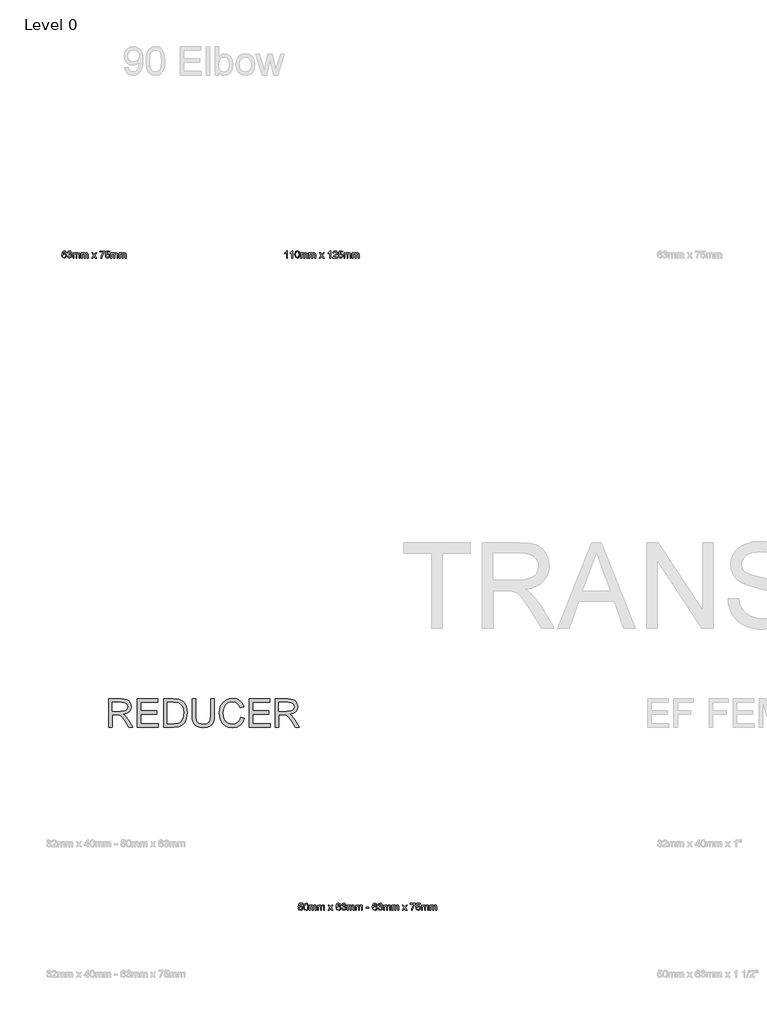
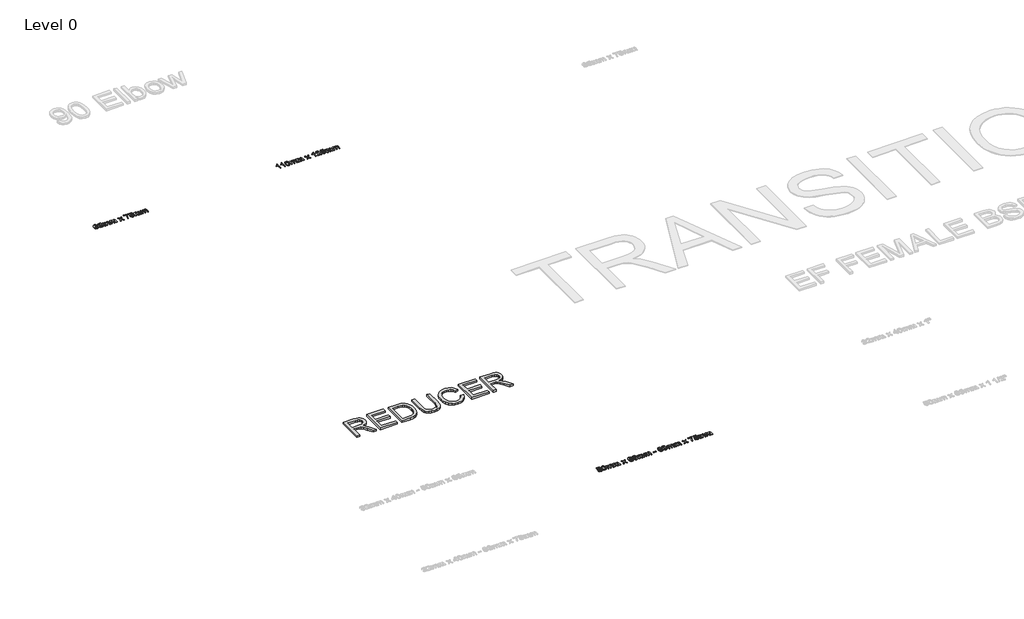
# One storey, part 3 of 21: 4 proxies.
"""IFC4 building model written with IfcOpenShell, lengths in millimetres."""

from ifc_helpers import new_model, si_unit, origin, origin_with_axes, place, context, project, spatial, polyline, outline, extrude, element, save

model = new_model("IFC4")

# Units and contexts
model_context = context("Model", 3, world=origin())
ifc_project = project(units=[si_unit("LENGTHUNIT", "METRE", prefix="MILLI")], contexts=[model_context])

# Site, building, storey
site = spatial("IfcSite", under=ifc_project)
building = spatial("IfcBuilding", under=site)
storey = spatial("IfcBuildingStorey", under=building, Name="Level 0", Elevation=0.0)

# Proxies
placement = place(None, origin())
element("IfcBuildingElementProxy", 1, Name="200mm Arial", ObjectType="200mm Arial", at=placement, inside=storey, context=model_context, shape_type="SweptSolid", body=[
    extrude(outline(polyline([(-11306.8908833, -11953.2112631), (-11306.8908833, -11752.2986428), (-11220.3159871, -11752.2986428), (-11197.0474509, -11753.6536748), (-11180.1187477, -11757.7187709), (-11167.74565, -11765.2235636), (-11158.1439299, -11776.8976855), (-11151.9819065, -11791.373842), (-11149.9278987, -11807.2847383), (-11153.3308071, -11827.0767897), (-11163.5395325, -11843.4843267), (-11180.8606431, -11855.5140679), (-11205.6007073, -11862.172732), (-11191.3268858, -11872.9148863), (-11170.9707488, -11898.7647278), (-11137.4689618, -11953.2112631), (-11166.6542667, -11953.2112631), (-11192.7984138, -11911.5670212), (-11211.6830229, -11884.0003971), (-11224.9513002, -11870.9773744), (-11236.8952023, -11866.1949085), (-11251.4633293, -11865.3119917), (-11281.7768057, -11865.3119917), (-11281.7768057, -11953.2112631), (-11306.8908833, -11953.2112631)]), holes=[polyline([(-11281.7768057, -11840.1979142), (-11225.5644369, -11840.1979142), (-11196.8941667, -11836.6417216), (-11187.4641249, -11832.0186711), (-11180.6092571, -11825.2619052), (-11175.0419762, -11808.2167061), (-11177.6968579, -11795.9662356), (-11185.6615031, -11786.0947354), (-11199.3651074, -11779.5832241), (-11219.2368665, -11777.4127203), (-11281.7768057, -11777.4127203), (-11281.7768057, -11840.1979142)])]), origin_with_axes(), (0.0, 0.0, 1.0), 15.0),
    extrude(outline(polyline([(-11105.978263, -11953.2112631), (-11105.978263, -11752.2986428), (-10961.5723171, -11752.2986428), (-10961.5723171, -11777.4127203), (-11080.8641854, -11777.4127203), (-11080.8641854, -11837.0586545), (-10967.8508365, -11837.0586545), (-10967.8508365, -11862.172732), (-11080.8641854, -11862.172732), (-11080.8641854, -11928.0971856), (-10958.4330574, -11928.0971856), (-10958.4330574, -11953.2112631), (-11105.978263, -11953.2112631)])), origin_with_axes(), (0.0, 0.0, 1.0), 15.0),
    extrude(outline(polyline([(-10920.7619411, -11953.2112631), (-10920.7619411, -11752.2986428), (-10851.4529732, -11752.2986428), (-10815.5967414, -11755.1926478), (-10799.5816119, -11760.7721914), (-10786.06808, -11769.5645711), (-10772.1744033, -11784.8684621), (-10762.2783776, -11803.900224), (-10756.3554775, -11826.2919748), (-10754.3811774, -11851.6758324), (-10759.7277291, -11892.2164283), (-10773.4619903, -11921.4753096), (-10791.8070391, -11939.6977311), (-10815.8174706, -11949.7776978), (-10848.1175098, -11953.2112631), (-10920.7619411, -11953.2112631)]), holes=[polyline([(-10895.6478636, -11928.0971856), (-10851.2077186, -11928.0971856), (-10818.8831539, -11924.4674165), (-10800.2437995, -11914.2157716), (-10791.5188649, -11903.3448586), (-10784.964434, -11889.2733723), (-10780.8625497, -11871.939999), (-10779.495255, -11851.283425), (-10782.1746622, -11823.9130045), (-10790.2128838, -11803.7040203), (-10802.0893409, -11789.8226063), (-10816.2834545, -11781.4348968), (-10851.8944316, -11777.4127203), (-10895.6478636, -11777.4127203), (-10895.6478636, -11928.0971856)])]), origin_with_axes(), (0.0, 0.0, 1.0), 15.0),
    extrude(outline(polyline([(-10588.0004138, -11752.2986428), (-10562.8863362, -11752.2986428), (-10562.8863362, -11868.2059967), (-10564.5908561, -11895.3495566), (-10569.7044159, -11916.2513853), (-10579.257085, -11932.3768794), (-10594.2789331, -11945.1914356), (-10614.8067485, -11953.560751), (-10640.8773192, -11956.3505228), (-10666.3776728, -11953.9225016), (-10686.7644667, -11946.6384381), (-10702.0438323, -11934.7497183), (-10712.2219008, -11918.5077282), (-10717.9424658, -11896.7229827), (-10719.8493208, -11868.2059967), (-10719.8493208, -11752.2986428), (-10694.7352433, -11752.2986428), (-10694.7352433, -11867.3230799), (-10693.4967072, -11889.8926404), (-10689.7810991, -11905.6073329), (-10683.0488586, -11916.4905086), (-10672.7604254, -11924.5655184), (-10659.3449954, -11929.5687135), (-10643.231764, -11931.2364452), (-10617.6884908, -11927.93777), (-10600.7046053, -11918.0417444), (-10591.1764616, -11898.7647278), (-10588.0004138, -11867.3230799), (-10588.0004138, -11752.2986428)])), origin_with_axes(), (0.0, 0.0, 1.0), 15.0),
    extrude(outline(polyline([(-10377.6700144, -11881.7931051), (-10352.5559368, -11888.2678282), (-10364.1442197, -11917.5328409), (-10382.329853, -11938.9129162), (-10406.2176572, -11951.9911211), (-10434.9124528, -11956.3505228), (-10464.0425755, -11953.0518476), (-10487.1762216, -11943.1558219), (-10504.9081338, -11927.0058023), (-10517.8330545, -11904.9451453), (-10525.7241233, -11879.0094647), (-10528.3544796, -11851.234374), (-10525.3807668, -11821.9387045), (-10516.4596284, -11796.6406859), (-10502.0570483, -11776.1435274), (-10482.6390103, -11761.250438), (-10459.6095974, -11752.1821468), (-10434.3728926, -11749.1593831), (-10406.8369252, -11753.071195), (-10384.0711611, -11764.8066306), (-10366.7868387, -11783.6421888), (-10355.6951965, -11808.8543682), (-10380.8092741, -11814.838582), (-10389.5158146, -11796.52419), (-10401.4106658, -11783.9610198), (-10416.6409804, -11776.6953504), (-10435.3539112, -11774.2734606), (-10456.9240589, -11776.9589992), (-10474.6437083, -11785.0156149), (-10488.0897952, -11797.5971791), (-10496.8392554, -11813.8575633), (-10501.6401154, -11832.2394003), (-10503.2404021, -11851.1853231), (-10501.3458098, -11874.3864143), (-10495.662033, -11894.4482457), (-10485.9744738, -11910.6043967), (-10472.0685343, -11922.0884463), (-10455.3973486, -11928.9494455), (-10437.4140504, -11931.2364452), (-10416.450908, -11928.121711), (-10398.9826446, -11918.7775083), (-10385.7940751, -11903.3019391), (-10377.6700144, -11881.7931051)])), origin_with_axes(), (0.0, 0.0, 1.0), 15.0),
    extrude(outline(polyline([(-10318.0240802, -11953.2112631), (-10318.0240802, -11752.2986428), (-10173.6181344, -11752.2986428), (-10173.6181344, -11777.4127203), (-10292.9100027, -11777.4127203), (-10292.9100027, -11837.0586545), (-10179.8966538, -11837.0586545), (-10179.8966538, -11862.172732), (-10292.9100027, -11862.172732), (-10292.9100027, -11928.0971856), (-10170.4788747, -11928.0971856), (-10170.4788747, -11953.2112631), (-10318.0240802, -11953.2112631)])), origin_with_axes(), (0.0, 0.0, 1.0), 15.0),
    extrude(outline(polyline([(-10132.8077584, -11953.2112631), (-10132.8077584, -11752.2986428), (-10046.2328622, -11752.2986428), (-10022.964326, -11753.6536748), (-10006.0356229, -11757.7187709), (-9993.6625251, -11765.2235636), (-9984.060805, -11776.8976855), (-9977.8987816, -11791.373842), (-9975.8447738, -11807.2847383), (-9979.2476822, -11827.0767897), (-9989.4564076, -11843.4843267), (-10006.7775182, -11855.5140679), (-10031.5175824, -11862.172732), (-10017.243761, -11872.9148863), (-9996.8876239, -11898.7647278), (-9963.3858369, -11953.2112631), (-9992.5711418, -11953.2112631), (-10018.715289, -11911.5670212), (-10037.599898, -11884.0003971), (-10050.8681753, -11870.9773744), (-10062.8120774, -11866.1949085), (-10077.3802045, -11865.3119917), (-10107.6936809, -11865.3119917), (-10107.6936809, -11953.2112631), (-10132.8077584, -11953.2112631)]), holes=[polyline([(-10107.6936809, -11840.1979142), (-10051.481312, -11840.1979142), (-10022.8110418, -11836.6417216), (-10013.381, -11832.0186711), (-10006.5261322, -11825.2619052), (-10000.9588513, -11808.2167061), (-10003.6137331, -11795.9662356), (-10011.5783782, -11786.0947354), (-10025.2819826, -11779.5832241), (-10045.1537417, -11777.4127203), (-10107.6936809, -11777.4127203), (-10107.6936809, -11840.1979142)])]), origin_with_axes(), (0.0, 0.0, 1.0), 15.0),
])
element("IfcBuildingElementProxy", 2, Name="50mm", ObjectType="50mm", at=placement, inside=storey, context=model_context, shape_type="SweptSolid", body=[
    extrude(outline(polyline([(-9971.6398969, -13230.5029813), (-9965.3613775, -13229.7181664), (-9962.1975923, -13236.1867581), (-9955.6370301, -13238.3511305), (-9947.7643554, -13235.3406295), (-9944.9561895, -13227.3514589), (-9947.5865457, -13219.8957171), (-9955.5389282, -13217.1611276), (-9961.0510268, -13218.2525109), (-9964.5765625, -13221.0852022), (-9970.8550819, -13220.3003873), (-9965.3613775, -13194.4014948), (-9941.0321149, -13194.4014948), (-9941.0321149, -13200.6800142), (-9960.2846059, -13200.6800142), (-9962.9701445, -13214.5123773), (-9953.7853574, -13210.8826082), (-9943.0493345, -13215.3830313), (-9938.6776701, -13226.9590514), (-9942.6140074, -13238.6086479), (-9948.2671274, -13243.1243994), (-9955.6615555, -13244.6296499), (-9966.740935, -13240.7607576), (-9971.6398969, -13230.5029813)])), origin_with_axes(), (0.0, 0.0, 1.0), 5.0),
    extrude(outline(polyline([(-9933.1839656, -13219.1354277), (-9931.3384243, -13204.6837966), (-9925.8569826, -13196.3512694), (-9916.7028522, -13193.6166799), (-9909.3697378, -13195.2353607), (-9904.305229, -13199.9013307), (-9901.362173, -13207.332547), (-9900.2217389, -13219.1354277), (-9902.0488861, -13233.525745), (-9907.5119337, -13241.8766663), (-9916.7028522, -13244.6296499), (-9928.1807705, -13239.847184), (-9931.9331668, -13231.3521756), (-9933.1839656, -13219.1354277)]), holes=[polyline([(-9926.9054462, -13219.1231649), (-9923.9623903, -13234.7152302), (-9916.7028522, -13238.3511305), (-9909.4433142, -13234.7029674), (-9906.5002582, -13219.1231649), (-9909.3452123, -13203.7089093), (-9916.7764286, -13199.8951993), (-9923.8642884, -13203.2551882), (-9926.9054462, -13219.1231649)])]), origin_with_axes(), (0.0, 0.0, 1.0), 5.0),
    extrude(outline(polyline([(-9893.1584046, -13243.844835), (-9893.1584046, -13206.9585336), (-9886.8798852, -13206.9585336), (-9886.8798852, -13213.0285865), (-9882.5634031, -13208.0560482), (-9876.4197738, -13206.1737187), (-9870.1289917, -13208.0928364), (-9866.6709009, -13213.4700449), (-9861.771939, -13207.9978003), (-9855.5853901, -13206.1737187), (-9847.3754903, -13209.2087452), (-9844.4998793, -13218.5590792), (-9844.4998793, -13243.844835), (-9850.7783987, -13243.844835), (-9850.7783987, -13221.2568805), (-9851.3608785, -13216.0145621), (-9853.4700686, -13213.4332567), (-9857.0569181, -13212.4522381), (-9863.2312042, -13214.9660984), (-9865.6898822, -13223.0227141), (-9865.6898822, -13243.844835), (-9871.9684016, -13243.844835), (-9871.9684016, -13220.5579047), (-9873.4215355, -13214.4755891), (-9878.1856073, -13212.4522381), (-9882.8331832, -13213.8011387), (-9885.923392, -13217.7497388), (-9886.8798852, -13225.2422688), (-9886.8798852, -13243.844835), (-9893.1584046, -13243.844835)])), origin_with_axes(), (0.0, 0.0, 1.0), 5.0),
    extrude(outline(polyline([(-9835.0821002, -13243.844835), (-9835.0821002, -13206.9585336), (-9828.8035809, -13206.9585336), (-9828.8035809, -13213.0285865), (-9824.4870988, -13208.0560482), (-9818.3434695, -13206.1737187), (-9812.0526873, -13208.0928364), (-9808.5945966, -13213.4700449), (-9803.6956347, -13207.9978003), (-9797.5090858, -13206.1737187), (-9789.2991859, -13209.2087452), (-9786.423575, -13218.5590792), (-9786.423575, -13243.844835), (-9792.7020944, -13243.844835), (-9792.7020944, -13221.2568805), (-9793.2845742, -13216.0145621), (-9795.3937643, -13213.4332567), (-9798.9806138, -13212.4522381), (-9805.1548999, -13214.9660984), (-9807.6135779, -13223.0227141), (-9807.6135779, -13243.844835), (-9813.8920973, -13243.844835), (-9813.8920973, -13220.5579047), (-9815.3452312, -13214.4755891), (-9820.109303, -13212.4522381), (-9824.7568789, -13213.8011387), (-9827.8470877, -13217.7497388), (-9828.8035809, -13225.2422688), (-9828.8035809, -13243.844835), (-9835.0821002, -13243.844835)])), origin_with_axes(), (0.0, 0.0, 1.0), 5.0),
    extrude(outline(polyline([(-9761.3094975, -13243.844835), (-9747.8940674, -13225.3035824), (-9760.5246826, -13206.9585336), (-9752.9708389, -13206.9585336), (-9746.8762605, -13215.7877015), (-9744.0313064, -13219.9570308), (-9741.5664971, -13216.547991), (-9734.6257901, -13206.9585336), (-9727.0719465, -13206.9585336), (-9740.3402238, -13225.3035824), (-9727.5624558, -13243.844835), (-9735.1162994, -13243.844835), (-9742.8050331, -13232.6980105), (-9744.2152474, -13230.6623968), (-9753.7556538, -13243.844835), (-9761.3094975, -13243.844835)])), origin_with_axes(), (0.0, 0.0, 1.0), 5.0),
    extrude(outline(polyline([(-9671.8405963, -13206.9585336), (-9678.1191156, -13207.7433485), (-9680.4980859, -13202.5071615), (-9686.788868, -13199.8951993), (-9692.4542507, -13201.4157782), (-9696.740076, -13207.1240805), (-9698.5243036, -13218.3138245), (-9692.9876796, -13213.304498), (-9686.1266804, -13211.6674232), (-9675.4581025, -13216.1433208), (-9671.0557813, -13227.7070781), (-9673.1281832, -13236.3706991), (-9678.8303542, -13242.5020657), (-9687.0586481, -13244.6296499), (-9699.8548102, -13238.9887927), (-9703.5658198, -13231.5207882), (-9704.802823, -13220.3984892), (-9703.4293969, -13207.893567), (-9699.3091186, -13199.3433763), (-9693.6835897, -13195.048354), (-9686.3964605, -13193.6166799), (-9676.4759094, -13197.1606098), (-9671.8405963, -13206.9585336)]), holes=[polyline([(-9698.5243036, -13227.6089763), (-9697.0711698, -13233.0474984), (-9693.2084088, -13236.9960985), (-9687.5491574, -13238.3511305), (-9680.148598, -13235.5429646), (-9677.3343007, -13227.9155446), (-9680.1118098, -13220.613087), (-9687.8066748, -13217.9459425), (-9695.403438, -13220.613087), (-9698.5243036, -13227.6089763)])]), origin_with_axes(), (0.0, 0.0, 1.0), 5.0),
    extrude(outline(polyline([(-9665.5620769, -13230.5029813), (-9659.2835575, -13229.7181664), (-9655.8193354, -13236.3277796), (-9649.3384809, -13238.3511305), (-9641.7110608, -13235.5674901), (-9638.8783695, -13228.6758341), (-9641.6865354, -13222.1827169), (-9648.8234461, -13219.6136743), (-9653.2257673, -13220.3003873), (-9652.5267915, -13214.0218679), (-9644.3965994, -13212.2928225), (-9641.2328143, -13206.7500672), (-9643.5259454, -13201.8388425), (-9649.4365827, -13199.8951993), (-9655.4207965, -13201.8572366), (-9658.4987426, -13207.7433485), (-9664.7772619, -13206.9585336), (-9659.6391767, -13197.1115589), (-9649.6573119, -13193.6166799), (-9642.0850742, -13195.3395939), (-9636.7875735, -13200.0484835), (-9634.9542949, -13206.3821852), (-9636.695603, -13212.1701952), (-9641.8459509, -13216.3272618), (-9635.0033458, -13220.6192184), (-9632.5998501, -13228.7861987), (-9637.4068415, -13240.0188623), (-9649.5592101, -13244.6296499), (-9660.5711445, -13240.6933126), (-9665.5620769, -13230.5029813)])), origin_with_axes(), (0.0, 0.0, 1.0), 5.0),
    extrude(outline(polyline([(-9625.5365158, -13243.844835), (-9625.5365158, -13206.9585336), (-9619.2579964, -13206.9585336), (-9619.2579964, -13213.0285865), (-9614.9415143, -13208.0560482), (-9608.797885, -13206.1737187), (-9602.5071029, -13208.0928364), (-9599.0490121, -13213.4700449), (-9594.1500502, -13207.9978003), (-9587.9635014, -13206.1737187), (-9579.7536015, -13209.2087452), (-9576.8779906, -13218.5590792), (-9576.8779906, -13243.844835), (-9583.1565099, -13243.844835), (-9583.1565099, -13221.2568805), (-9583.7389898, -13216.0145621), (-9585.8481799, -13213.4332567), (-9589.4350293, -13212.4522381), (-9595.6093155, -13214.9660984), (-9598.0679935, -13223.0227141), (-9598.0679935, -13243.844835), (-9604.3465129, -13243.844835), (-9604.3465129, -13220.5579047), (-9605.7996468, -13214.4755891), (-9610.5637186, -13212.4522381), (-9615.2112945, -13213.8011387), (-9618.3015032, -13217.7497388), (-9619.2579964, -13225.2422688), (-9619.2579964, -13243.844835), (-9625.5365158, -13243.844835)])), origin_with_axes(), (0.0, 0.0, 1.0), 5.0),
    extrude(outline(polyline([(-9567.4602115, -13243.844835), (-9567.4602115, -13206.9585336), (-9561.1816921, -13206.9585336), (-9561.1816921, -13213.0285865), (-9556.86521, -13208.0560482), (-9550.7215807, -13206.1737187), (-9544.4307986, -13208.0928364), (-9540.9727078, -13213.4700449), (-9536.0737459, -13207.9978003), (-9529.887197, -13206.1737187), (-9521.6772972, -13209.2087452), (-9518.8016863, -13218.5590792), (-9518.8016863, -13243.844835), (-9525.0802056, -13243.844835), (-9525.0802056, -13221.2568805), (-9525.6626855, -13216.0145621), (-9527.7718756, -13213.4332567), (-9531.358725, -13212.4522381), (-9537.5330112, -13214.9660984), (-9539.9916892, -13223.0227141), (-9539.9916892, -13243.844835), (-9546.2702086, -13243.844835), (-9546.2702086, -13220.5579047), (-9547.7233424, -13214.4755891), (-9552.4874143, -13212.4522381), (-9557.1349902, -13213.8011387), (-9560.2251989, -13217.7497388), (-9561.1816921, -13225.2422688), (-9561.1816921, -13243.844835), (-9567.4602115, -13243.844835)])), origin_with_axes(), (0.0, 0.0, 1.0), 5.0),
    extrude(outline(polyline([(-9492.9027938, -13228.9333515), (-9492.9027938, -13222.6548321), (-9473.2824207, -13222.6548321), (-9473.2824207, -13228.9333515), (-9492.9027938, -13228.9333515)])), origin_with_axes(), (0.0, 0.0, 1.0), 5.0),
    extrude(outline(polyline([(-9415.9909313, -13206.9585336), (-9422.2694507, -13207.7433485), (-9424.648421, -13202.5071615), (-9430.9392031, -13199.8951993), (-9436.6045858, -13201.4157782), (-9440.890411, -13207.1240805), (-9442.6746387, -13218.3138245), (-9437.1380147, -13213.304498), (-9430.2770155, -13211.6674232), (-9419.6084376, -13216.1433208), (-9415.2061164, -13227.7070781), (-9417.2785183, -13236.3706991), (-9422.9806892, -13242.5020657), (-9431.2089832, -13244.6296499), (-9444.0051453, -13238.9887927), (-9447.7161549, -13231.5207882), (-9448.9531581, -13220.3984892), (-9447.579732, -13207.893567), (-9443.4594536, -13199.3433763), (-9437.8339248, -13195.048354), (-9430.5467956, -13193.6166799), (-9420.6262445, -13197.1606098), (-9415.9909313, -13206.9585336)]), holes=[polyline([(-9442.6746387, -13227.6089763), (-9441.2215048, -13233.0474984), (-9437.3587439, -13236.9960985), (-9431.6994925, -13238.3511305), (-9424.2989331, -13235.5429646), (-9421.4846358, -13227.9155446), (-9424.2621449, -13220.613087), (-9431.9570099, -13217.9459425), (-9439.5537731, -13220.613087), (-9442.6746387, -13227.6089763)])]), origin_with_axes(), (0.0, 0.0, 1.0), 5.0),
    extrude(outline(polyline([(-9409.712412, -13230.5029813), (-9403.4338926, -13229.7181664), (-9399.9696705, -13236.3277796), (-9393.488816, -13238.3511305), (-9385.8613959, -13235.5674901), (-9383.0287046, -13228.6758341), (-9385.8368705, -13222.1827169), (-9392.9737812, -13219.6136743), (-9397.3761024, -13220.3003873), (-9396.6771266, -13214.0218679), (-9388.5469345, -13212.2928225), (-9385.3831493, -13206.7500672), (-9387.6762804, -13201.8388425), (-9393.5869178, -13199.8951993), (-9399.5711316, -13201.8572366), (-9402.6490776, -13207.7433485), (-9408.927597, -13206.9585336), (-9403.7895118, -13197.1115589), (-9393.807647, -13193.6166799), (-9386.2354093, -13195.3395939), (-9380.9379086, -13200.0484835), (-9379.10463, -13206.3821852), (-9380.8459381, -13212.1701952), (-9385.996286, -13216.3272618), (-9379.1536809, -13220.6192184), (-9376.7501852, -13228.7861987), (-9381.5571766, -13240.0188623), (-9393.7095452, -13244.6296499), (-9404.7214796, -13240.6933126), (-9409.712412, -13230.5029813)])), origin_with_axes(), (0.0, 0.0, 1.0), 5.0),
    extrude(outline(polyline([(-9369.6868509, -13243.844835), (-9369.6868509, -13206.9585336), (-9363.4083315, -13206.9585336), (-9363.4083315, -13213.0285865), (-9359.0918494, -13208.0560482), (-9352.9482201, -13206.1737187), (-9346.657438, -13208.0928364), (-9343.1993472, -13213.4700449), (-9338.3003853, -13207.9978003), (-9332.1138364, -13206.1737187), (-9323.9039366, -13209.2087452), (-9321.0283257, -13218.5590792), (-9321.0283257, -13243.844835), (-9327.306845, -13243.844835), (-9327.306845, -13221.2568805), (-9327.8893249, -13216.0145621), (-9329.998515, -13213.4332567), (-9333.5853644, -13212.4522381), (-9339.7596506, -13214.9660984), (-9342.2183286, -13223.0227141), (-9342.2183286, -13243.844835), (-9348.496848, -13243.844835), (-9348.496848, -13220.5579047), (-9349.9499818, -13214.4755891), (-9354.7140537, -13212.4522381), (-9359.3616295, -13213.8011387), (-9362.4518383, -13217.7497388), (-9363.4083315, -13225.2422688), (-9363.4083315, -13243.844835), (-9369.6868509, -13243.844835)])), origin_with_axes(), (0.0, 0.0, 1.0), 5.0),
    extrude(outline(polyline([(-9311.6105466, -13243.844835), (-9311.6105466, -13206.9585336), (-9305.3320272, -13206.9585336), (-9305.3320272, -13213.0285865), (-9301.0155451, -13208.0560482), (-9294.8719158, -13206.1737187), (-9288.5811337, -13208.0928364), (-9285.1230429, -13213.4700449), (-9280.224081, -13207.9978003), (-9274.0375321, -13206.1737187), (-9265.8276323, -13209.2087452), (-9262.9520213, -13218.5590792), (-9262.9520213, -13243.844835), (-9269.2305407, -13243.844835), (-9269.2305407, -13221.2568805), (-9269.8130206, -13216.0145621), (-9271.9222107, -13213.4332567), (-9275.5090601, -13212.4522381), (-9281.6833463, -13214.9660984), (-9284.1420243, -13223.0227141), (-9284.1420243, -13243.844835), (-9290.4205437, -13243.844835), (-9290.4205437, -13220.5579047), (-9291.8736775, -13214.4755891), (-9296.6377494, -13212.4522381), (-9301.2853252, -13213.8011387), (-9304.375534, -13217.7497388), (-9305.3320272, -13225.2422688), (-9305.3320272, -13243.844835), (-9311.6105466, -13243.844835)])), origin_with_axes(), (0.0, 0.0, 1.0), 5.0),
    extrude(outline(polyline([(-9237.8379438, -13243.844835), (-9224.4225137, -13225.3035824), (-9237.0531289, -13206.9585336), (-9229.4992853, -13206.9585336), (-9223.4047069, -13215.7877015), (-9220.5597528, -13219.9570308), (-9218.0949434, -13216.547991), (-9211.1542364, -13206.9585336), (-9203.6003928, -13206.9585336), (-9216.8686701, -13225.3035824), (-9204.0909021, -13243.844835), (-9211.6447458, -13243.844835), (-9219.3334795, -13232.6980105), (-9220.7436938, -13230.6623968), (-9230.2841002, -13243.844835), (-9237.8379438, -13243.844835)])), origin_with_axes(), (0.0, 0.0, 1.0), 5.0),
    extrude(outline(polyline([(-9180.5464544, -13200.6800142), (-9180.5464544, -13194.4014948), (-9147.5842277, -13194.4014948), (-9147.5842277, -13199.4782664), (-9156.9345617, -13212.985667), (-9164.0898665, -13230.196413), (-9166.4197858, -13243.844835), (-9172.6983052, -13243.844835), (-9170.202839, -13229.6813782), (-9163.3541025, -13213.67238), (-9153.862747, -13200.6800142), (-9180.5464544, -13200.6800142)])), origin_with_axes(), (0.0, 0.0, 1.0), 5.0),
    extrude(outline(polyline([(-9142.0905232, -13230.5029813), (-9135.8120038, -13229.7181664), (-9132.6482187, -13236.1867581), (-9126.0876564, -13238.3511305), (-9118.2149817, -13235.3406295), (-9115.4068158, -13227.3514589), (-9118.0371721, -13219.8957171), (-9125.9895545, -13217.1611276), (-9131.5016531, -13218.2525109), (-9135.0271889, -13221.0852022), (-9141.3057083, -13220.3003873), (-9135.8120038, -13194.4014948), (-9111.4827412, -13194.4014948), (-9111.4827412, -13200.6800142), (-9130.7352323, -13200.6800142), (-9133.4207708, -13214.5123773), (-9124.2359837, -13210.8826082), (-9113.4999608, -13215.3830313), (-9109.1282964, -13226.9590514), (-9113.0646338, -13238.6086479), (-9118.7177538, -13243.1243994), (-9126.1121819, -13244.6296499), (-9137.1915613, -13240.7607576), (-9142.0905232, -13230.5029813)])), origin_with_axes(), (0.0, 0.0, 1.0), 5.0),
    extrude(outline(polyline([(-9102.0649621, -13243.844835), (-9102.0649621, -13206.9585336), (-9095.7864427, -13206.9585336), (-9095.7864427, -13213.0285865), (-9091.4699607, -13208.0560482), (-9085.3263313, -13206.1737187), (-9079.0355492, -13208.0928364), (-9075.5774585, -13213.4700449), (-9070.6784966, -13207.9978003), (-9064.4919477, -13206.1737187), (-9056.2820478, -13209.2087452), (-9053.4064369, -13218.5590792), (-9053.4064369, -13243.844835), (-9059.6849563, -13243.844835), (-9059.6849563, -13221.2568805), (-9060.2674361, -13216.0145621), (-9062.3766262, -13213.4332567), (-9065.9634757, -13212.4522381), (-9072.1377618, -13214.9660984), (-9074.5964398, -13223.0227141), (-9074.5964398, -13243.844835), (-9080.8749592, -13243.844835), (-9080.8749592, -13220.5579047), (-9082.3280931, -13214.4755891), (-9087.0921649, -13212.4522381), (-9091.7397408, -13213.8011387), (-9094.8299496, -13217.7497388), (-9095.7864427, -13225.2422688), (-9095.7864427, -13243.844835), (-9102.0649621, -13243.844835)])), origin_with_axes(), (0.0, 0.0, 1.0), 5.0),
    extrude(outline(polyline([(-9043.9886578, -13243.844835), (-9043.9886578, -13206.9585336), (-9037.7101384, -13206.9585336), (-9037.7101384, -13213.0285865), (-9033.3936564, -13208.0560482), (-9027.250027, -13206.1737187), (-9020.9592449, -13208.0928364), (-9017.5011542, -13213.4700449), (-9012.6021923, -13207.9978003), (-9006.4156434, -13206.1737187), (-8998.2057435, -13209.2087452), (-8995.3301326, -13218.5590792), (-8995.3301326, -13243.844835), (-9001.608652, -13243.844835), (-9001.608652, -13221.2568805), (-9002.1911318, -13216.0145621), (-9004.3003219, -13213.4332567), (-9007.8871714, -13212.4522381), (-9014.0614575, -13214.9660984), (-9016.5201355, -13223.0227141), (-9016.5201355, -13243.844835), (-9022.7986549, -13243.844835), (-9022.7986549, -13220.5579047), (-9024.2517888, -13214.4755891), (-9029.0158606, -13212.4522381), (-9033.6634365, -13213.8011387), (-9036.7536452, -13217.7497388), (-9037.7101384, -13225.2422688), (-9037.7101384, -13243.844835), (-9043.9886578, -13243.844835)])), origin_with_axes(), (0.0, 0.0, 1.0), 5.0),
])
element("IfcBuildingElementProxy", 3, Name="50mm", ObjectType="50mm", at=placement, inside=storey, context=model_context, shape_type="SweptSolid", body=[
    extrude(outline(polyline([(-11606.051157, -8606.9585336), (-11612.3296764, -8607.7433485), (-11614.7086466, -8602.5071615), (-11620.9994287, -8599.8951993), (-11626.6648115, -8601.4157782), (-11630.9506367, -8607.1240805), (-11632.7348644, -8618.3138245), (-11627.1982403, -8613.304498), (-11620.3372411, -8611.6674232), (-11609.6686633, -8616.1433208), (-11605.2663421, -8627.7070781), (-11607.338744, -8636.3706991), (-11613.0409149, -8642.5020657), (-11621.2692089, -8644.6296499), (-11634.0653709, -8638.9887927), (-11637.7763805, -8631.5207882), (-11639.0133838, -8620.3984892), (-11637.6399576, -8607.893567), (-11633.5196793, -8599.3433763), (-11627.8941505, -8595.048354), (-11620.6070213, -8593.6166799), (-11610.6864701, -8597.1606098), (-11606.051157, -8606.9585336)]), holes=[polyline([(-11632.7348644, -8627.6089763), (-11631.2817305, -8633.0474984), (-11627.4189695, -8636.9960985), (-11621.7597182, -8638.3511305), (-11614.3591587, -8635.5429646), (-11611.5448614, -8627.9155446), (-11614.3223705, -8620.613087), (-11622.0172356, -8617.9459425), (-11629.6139988, -8620.613087), (-11632.7348644, -8627.6089763)])]), origin_with_axes(), (0.0, 0.0, 1.0), 5.0),
    extrude(outline(polyline([(-11599.7726376, -8630.5029813), (-11593.4941182, -8629.7181664), (-11590.0298961, -8636.3277796), (-11583.5490416, -8638.3511305), (-11575.9216216, -8635.5674901), (-11573.0889302, -8628.6758341), (-11575.8970961, -8622.1827169), (-11583.0340068, -8619.6136743), (-11587.436328, -8620.3003873), (-11586.7373522, -8614.0218679), (-11578.6071601, -8612.2928225), (-11575.443375, -8606.7500672), (-11577.7365061, -8601.8388425), (-11583.6471435, -8599.8951993), (-11589.6313573, -8601.8572366), (-11592.7093033, -8607.7433485), (-11598.9878227, -8606.9585336), (-11593.8497375, -8597.1115589), (-11583.8678727, -8593.6166799), (-11576.2956349, -8595.3395939), (-11570.9981342, -8600.0484835), (-11569.1648556, -8606.3821852), (-11570.9061637, -8612.1701952), (-11576.0565116, -8616.3272618), (-11569.2139065, -8620.6192184), (-11566.8104108, -8628.7861987), (-11571.6174022, -8640.0188623), (-11583.7697708, -8644.6296499), (-11594.7817052, -8640.6933126), (-11599.7726376, -8630.5029813)])), origin_with_axes(), (0.0, 0.0, 1.0), 5.0),
    extrude(outline(polyline([(-11559.7470765, -8643.844835), (-11559.7470765, -8606.9585336), (-11553.4685571, -8606.9585336), (-11553.4685571, -8613.0285865), (-11549.1520751, -8608.0560482), (-11543.0084457, -8606.1737187), (-11536.7176636, -8608.0928364), (-11533.2595729, -8613.4700449), (-11528.360611, -8607.9978003), (-11522.1740621, -8606.1737187), (-11513.9641622, -8609.2087452), (-11511.0885513, -8618.5590792), (-11511.0885513, -8643.844835), (-11517.3670707, -8643.844835), (-11517.3670707, -8621.2568805), (-11517.9495505, -8616.0145621), (-11520.0587406, -8613.4332567), (-11523.6455901, -8612.4522381), (-11529.8198762, -8614.9660984), (-11532.2785542, -8623.0227141), (-11532.2785542, -8643.844835), (-11538.5570736, -8643.844835), (-11538.5570736, -8620.5579047), (-11540.0102075, -8614.4755891), (-11544.7742793, -8612.4522381), (-11549.4218552, -8613.8011387), (-11552.512064, -8617.7497388), (-11553.4685571, -8625.2422688), (-11553.4685571, -8643.844835), (-11559.7470765, -8643.844835)])), origin_with_axes(), (0.0, 0.0, 1.0), 5.0),
    extrude(outline(polyline([(-11501.6707722, -8643.844835), (-11501.6707722, -8606.9585336), (-11495.3922528, -8606.9585336), (-11495.3922528, -8613.0285865), (-11491.0757708, -8608.0560482), (-11484.9321414, -8606.1737187), (-11478.6413593, -8608.0928364), (-11475.1832686, -8613.4700449), (-11470.2843067, -8607.9978003), (-11464.0977578, -8606.1737187), (-11455.8878579, -8609.2087452), (-11453.012247, -8618.5590792), (-11453.012247, -8643.844835), (-11459.2907664, -8643.844835), (-11459.2907664, -8621.2568805), (-11459.8732462, -8616.0145621), (-11461.9824363, -8613.4332567), (-11465.5692858, -8612.4522381), (-11471.7435719, -8614.9660984), (-11474.2022499, -8623.0227141), (-11474.2022499, -8643.844835), (-11480.4807693, -8643.844835), (-11480.4807693, -8620.5579047), (-11481.9339032, -8614.4755891), (-11486.697975, -8612.4522381), (-11491.3455509, -8613.8011387), (-11494.4357597, -8617.7497388), (-11495.3922528, -8625.2422688), (-11495.3922528, -8643.844835), (-11501.6707722, -8643.844835)])), origin_with_axes(), (0.0, 0.0, 1.0), 5.0),
    extrude(outline(polyline([(-11427.8981695, -8643.844835), (-11414.4827394, -8625.3035824), (-11427.1133545, -8606.9585336), (-11419.5595109, -8606.9585336), (-11413.4649325, -8615.7877015), (-11410.6199784, -8619.9570308), (-11408.155169, -8616.547991), (-11401.2144621, -8606.9585336), (-11393.6606184, -8606.9585336), (-11406.9288957, -8625.3035824), (-11394.1511278, -8643.844835), (-11401.7049714, -8643.844835), (-11409.3937051, -8632.6980105), (-11410.8039194, -8630.6623968), (-11420.3443258, -8643.844835), (-11427.8981695, -8643.844835)])), origin_with_axes(), (0.0, 0.0, 1.0), 5.0),
    extrude(outline(polyline([(-11370.6066801, -8600.6800142), (-11370.6066801, -8594.4014948), (-11337.6444533, -8594.4014948), (-11337.6444533, -8599.4782664), (-11346.9947874, -8612.985667), (-11354.1500922, -8630.196413), (-11356.4800115, -8643.844835), (-11362.7585308, -8643.844835), (-11360.2630646, -8629.6813782), (-11353.4143282, -8613.67238), (-11343.9229727, -8600.6800142), (-11370.6066801, -8600.6800142)])), origin_with_axes(), (0.0, 0.0, 1.0), 5.0),
    extrude(outline(polyline([(-11332.1507488, -8630.5029813), (-11325.8722295, -8629.7181664), (-11322.7084443, -8636.1867581), (-11316.1478821, -8638.3511305), (-11308.2752074, -8635.3406295), (-11305.4670415, -8627.3514589), (-11308.0973977, -8619.8957171), (-11316.0497802, -8617.1611276), (-11321.5618788, -8618.2525109), (-11325.0874145, -8621.0852022), (-11331.3659339, -8620.3003873), (-11325.8722295, -8594.4014948), (-11301.5429668, -8594.4014948), (-11301.5429668, -8600.6800142), (-11320.7954579, -8600.6800142), (-11323.4809965, -8614.5123773), (-11314.2962093, -8610.8826082), (-11303.5601865, -8615.3830313), (-11299.1885221, -8626.9590514), (-11303.1248594, -8638.6086479), (-11308.7779794, -8643.1243994), (-11316.1724075, -8644.6296499), (-11327.2517869, -8640.7607576), (-11332.1507488, -8630.5029813)])), origin_with_axes(), (0.0, 0.0, 1.0), 5.0),
    extrude(outline(polyline([(-11292.1251878, -8643.844835), (-11292.1251878, -8606.9585336), (-11285.8466684, -8606.9585336), (-11285.8466684, -8613.0285865), (-11281.5301863, -8608.0560482), (-11275.386557, -8606.1737187), (-11269.0957749, -8608.0928364), (-11265.6376841, -8613.4700449), (-11260.7387222, -8607.9978003), (-11254.5521733, -8606.1737187), (-11246.3422735, -8609.2087452), (-11243.4666625, -8618.5590792), (-11243.4666625, -8643.844835), (-11249.7451819, -8643.844835), (-11249.7451819, -8621.2568805), (-11250.3276618, -8616.0145621), (-11252.4368519, -8613.4332567), (-11256.0237013, -8612.4522381), (-11262.1979875, -8614.9660984), (-11264.6566655, -8623.0227141), (-11264.6566655, -8643.844835), (-11270.9351848, -8643.844835), (-11270.9351848, -8620.5579047), (-11272.3883187, -8614.4755891), (-11277.1523906, -8612.4522381), (-11281.7999664, -8613.8011387), (-11284.8901752, -8617.7497388), (-11285.8466684, -8625.2422688), (-11285.8466684, -8643.844835), (-11292.1251878, -8643.844835)])), origin_with_axes(), (0.0, 0.0, 1.0), 5.0),
    extrude(outline(polyline([(-11234.0488835, -8643.844835), (-11234.0488835, -8606.9585336), (-11227.7703641, -8606.9585336), (-11227.7703641, -8613.0285865), (-11223.453882, -8608.0560482), (-11217.3102527, -8606.1737187), (-11211.0194706, -8608.0928364), (-11207.5613798, -8613.4700449), (-11202.6624179, -8607.9978003), (-11196.475869, -8606.1737187), (-11188.2659692, -8609.2087452), (-11185.3903582, -8618.5590792), (-11185.3903582, -8643.844835), (-11191.6688776, -8643.844835), (-11191.6688776, -8621.2568805), (-11192.2513574, -8616.0145621), (-11194.3605476, -8613.4332567), (-11197.947397, -8612.4522381), (-11204.1216832, -8614.9660984), (-11206.5803612, -8623.0227141), (-11206.5803612, -8643.844835), (-11212.8588805, -8643.844835), (-11212.8588805, -8620.5579047), (-11214.3120144, -8614.4755891), (-11219.0760863, -8612.4522381), (-11223.7236621, -8613.8011387), (-11226.8138709, -8617.7497388), (-11227.7703641, -8625.2422688), (-11227.7703641, -8643.844835), (-11234.0488835, -8643.844835)])), origin_with_axes(), (0.0, 0.0, 1.0), 5.0),
])
element("IfcBuildingElementProxy", 4, Name="50mm", ObjectType="50mm", at=placement, inside=storey, context=model_context, shape_type="SweptSolid", body=[
    extrude(outline(polyline([(-10048.0954492, -8643.844835), (-10054.3739685, -8643.844835), (-10054.3739685, -8604.7021907), (-10060.3213941, -8608.938965), (-10066.9310073, -8612.1088815), (-10066.9310073, -8606.1737187), (-10057.7278261, -8600.2998695), (-10052.1421511, -8593.6166799), (-10048.0954492, -8593.6166799), (-10048.0954492, -8643.844835)])), origin_with_axes(), (0.0, 0.0, 1.0), 5.0),
    extrude(outline(polyline([(-10009.6395179, -8643.844835), (-10015.9180373, -8643.844835), (-10015.9180373, -8604.7021907), (-10021.8654629, -8608.938965), (-10028.4750761, -8612.1088815), (-10028.4750761, -8606.1737187), (-10019.2718948, -8600.2998695), (-10013.6862199, -8593.6166799), (-10009.6395179, -8593.6166799), (-10009.6395179, -8643.844835)])), origin_with_axes(), (0.0, 0.0, 1.0), 5.0),
    extrude(outline(polyline([(-9994.7280344, -8619.1354277), (-9992.8824931, -8604.6837966), (-9987.4010513, -8596.3512694), (-9978.246921, -8593.6166799), (-9970.9138066, -8595.2353607), (-9965.8492978, -8599.9013307), (-9962.9062418, -8607.332547), (-9961.7658076, -8619.1354277), (-9963.5929549, -8633.525745), (-9969.0560025, -8641.8766663), (-9978.246921, -8644.6296499), (-9989.7248393, -8639.847184), (-9993.4772356, -8631.3521756), (-9994.7280344, -8619.1354277)]), holes=[polyline([(-9988.449515, -8619.1231649), (-9985.5064591, -8634.7152302), (-9978.246921, -8638.3511305), (-9970.987383, -8634.7029674), (-9968.044327, -8619.1231649), (-9970.8892811, -8603.7089093), (-9978.3204974, -8599.8951993), (-9985.4083572, -8603.2551882), (-9988.449515, -8619.1231649)])]), origin_with_axes(), (0.0, 0.0, 1.0), 5.0),
    extrude(outline(polyline([(-9954.7024733, -8643.844835), (-9954.7024733, -8606.9585336), (-9948.4239539, -8606.9585336), (-9948.4239539, -8613.0285865), (-9944.1074719, -8608.0560482), (-9937.9638425, -8606.1737187), (-9931.6730604, -8608.0928364), (-9928.2149697, -8613.4700449), (-9923.3160078, -8607.9978003), (-9917.1294589, -8606.1737187), (-9908.919559, -8609.2087452), (-9906.0439481, -8618.5590792), (-9906.0439481, -8643.844835), (-9912.3224675, -8643.844835), (-9912.3224675, -8621.2568805), (-9912.9049473, -8616.0145621), (-9915.0141374, -8613.4332567), (-9918.6009869, -8612.4522381), (-9924.775273, -8614.9660984), (-9927.233951, -8623.0227141), (-9927.233951, -8643.844835), (-9933.5124704, -8643.844835), (-9933.5124704, -8620.5579047), (-9934.9656043, -8614.4755891), (-9939.7296761, -8612.4522381), (-9944.377252, -8613.8011387), (-9947.4674607, -8617.7497388), (-9948.4239539, -8625.2422688), (-9948.4239539, -8643.844835), (-9954.7024733, -8643.844835)])), origin_with_axes(), (0.0, 0.0, 1.0), 5.0),
    extrude(outline(polyline([(-9896.626169, -8643.844835), (-9896.626169, -8606.9585336), (-9890.3476496, -8606.9585336), (-9890.3476496, -8613.0285865), (-9886.0311676, -8608.0560482), (-9879.8875382, -8606.1737187), (-9873.5967561, -8608.0928364), (-9870.1386654, -8613.4700449), (-9865.2397035, -8607.9978003), (-9859.0531546, -8606.1737187), (-9850.8432547, -8609.2087452), (-9847.9676438, -8618.5590792), (-9847.9676438, -8643.844835), (-9854.2461632, -8643.844835), (-9854.2461632, -8621.2568805), (-9854.828643, -8616.0145621), (-9856.9378331, -8613.4332567), (-9860.5246826, -8612.4522381), (-9866.6989687, -8614.9660984), (-9869.1576467, -8623.0227141), (-9869.1576467, -8643.844835), (-9875.4361661, -8643.844835), (-9875.4361661, -8620.5579047), (-9876.8893, -8614.4755891), (-9881.6533718, -8612.4522381), (-9886.3009477, -8613.8011387), (-9889.3911564, -8617.7497388), (-9890.3476496, -8625.2422688), (-9890.3476496, -8643.844835), (-9896.626169, -8643.844835)])), origin_with_axes(), (0.0, 0.0, 1.0), 5.0),
    extrude(outline(polyline([(-9822.8535663, -8643.844835), (-9809.4381362, -8625.3035824), (-9822.0687513, -8606.9585336), (-9814.5149077, -8606.9585336), (-9808.4203293, -8615.7877015), (-9805.5753752, -8619.9570308), (-9803.1105658, -8616.547991), (-9796.1698589, -8606.9585336), (-9788.6160152, -8606.9585336), (-9801.8842925, -8625.3035824), (-9789.1065246, -8643.844835), (-9796.6603682, -8643.844835), (-9804.3491019, -8632.6980105), (-9805.7593162, -8630.6623968), (-9815.2997226, -8643.844835), (-9822.8535663, -8643.844835)])), origin_with_axes(), (0.0, 0.0, 1.0), 5.0),
    extrude(outline(polyline([(-9742.0176292, -8643.844835), (-9748.2961486, -8643.844835), (-9748.2961486, -8604.7021907), (-9754.2435741, -8608.938965), (-9760.8531873, -8612.1088815), (-9760.8531873, -8606.1737187), (-9751.6500061, -8600.2998695), (-9746.0643311, -8593.6166799), (-9742.0176292, -8593.6166799), (-9742.0176292, -8643.844835)])), origin_with_axes(), (0.0, 0.0, 1.0), 5.0),
    extrude(outline(polyline([(-9694.9287338, -8637.5663156), (-9694.9287338, -8643.844835), (-9727.8909606, -8643.844835), (-9727.2165102, -8639.5160902), (-9723.4028002, -8632.8512947), (-9715.5423883, -8625.5733626), (-9704.7021321, -8615.1132512), (-9701.9920681, -8608.0008659), (-9704.548848, -8602.2435127), (-9711.2259062, -8599.8951993), (-9718.1850073, -8602.1883304), (-9720.8276263, -8608.5281635), (-9727.1061456, -8607.7433485), (-9722.2930229, -8597.2341862), (-9711.0910161, -8593.6166799), (-9699.8522212, -8597.6388564), (-9695.7135487, -8607.6207212), (-9696.8294574, -8613.5742782), (-9700.5389342, -8619.7301702), (-9709.533649, -8628.3324775), (-9716.7563988, -8634.3718736), (-9719.5890902, -8637.5663156), (-9694.9287338, -8637.5663156)])), origin_with_axes(), (0.0, 0.0, 1.0), 5.0),
    extrude(outline(polyline([(-9688.6502144, -8630.5029813), (-9682.371695, -8629.7181664), (-9679.2079099, -8636.1867581), (-9672.6473476, -8638.3511305), (-9664.7746729, -8635.3406295), (-9661.966507, -8627.3514589), (-9664.5968633, -8619.8957171), (-9672.5492458, -8617.1611276), (-9678.0613443, -8618.2525109), (-9681.5868801, -8621.0852022), (-9687.8653995, -8620.3003873), (-9682.371695, -8594.4014948), (-9658.0424324, -8594.4014948), (-9658.0424324, -8600.6800142), (-9677.2949235, -8600.6800142), (-9679.9804621, -8614.5123773), (-9670.7956749, -8610.8826082), (-9660.059652, -8615.3830313), (-9655.6879876, -8626.9590514), (-9659.624325, -8638.6086479), (-9665.277445, -8643.1243994), (-9672.6718731, -8644.6296499), (-9683.7512525, -8640.7607576), (-9688.6502144, -8630.5029813)])), origin_with_axes(), (0.0, 0.0, 1.0), 5.0),
    extrude(outline(polyline([(-9648.6246533, -8643.844835), (-9648.6246533, -8606.9585336), (-9642.346134, -8606.9585336), (-9642.346134, -8613.0285865), (-9638.0296519, -8608.0560482), (-9631.8860226, -8606.1737187), (-9625.5952404, -8608.0928364), (-9622.1371497, -8613.4700449), (-9617.2381878, -8607.9978003), (-9611.0516389, -8606.1737187), (-9602.841739, -8609.2087452), (-9599.9661281, -8618.5590792), (-9599.9661281, -8643.844835), (-9606.2446475, -8643.844835), (-9606.2446475, -8621.2568805), (-9606.8271273, -8616.0145621), (-9608.9363174, -8613.4332567), (-9612.5231669, -8612.4522381), (-9618.697453, -8614.9660984), (-9621.156131, -8623.0227141), (-9621.156131, -8643.844835), (-9627.4346504, -8643.844835), (-9627.4346504, -8620.5579047), (-9628.8877843, -8614.4755891), (-9633.6518561, -8612.4522381), (-9638.299432, -8613.8011387), (-9641.3896408, -8617.7497388), (-9642.346134, -8625.2422688), (-9642.346134, -8643.844835), (-9648.6246533, -8643.844835)])), origin_with_axes(), (0.0, 0.0, 1.0), 5.0),
    extrude(outline(polyline([(-9590.548349, -8643.844835), (-9590.548349, -8606.9585336), (-9584.2698296, -8606.9585336), (-9584.2698296, -8613.0285865), (-9579.9533476, -8608.0560482), (-9573.8097182, -8606.1737187), (-9567.5189361, -8608.0928364), (-9564.0608454, -8613.4700449), (-9559.1618835, -8607.9978003), (-9552.9753346, -8606.1737187), (-9544.7654347, -8609.2087452), (-9541.8898238, -8618.5590792), (-9541.8898238, -8643.844835), (-9548.1683432, -8643.844835), (-9548.1683432, -8621.2568805), (-9548.750823, -8616.0145621), (-9550.8600131, -8613.4332567), (-9554.4468626, -8612.4522381), (-9560.6211487, -8614.9660984), (-9563.0798267, -8623.0227141), (-9563.0798267, -8643.844835), (-9569.3583461, -8643.844835), (-9569.3583461, -8620.5579047), (-9570.81148, -8614.4755891), (-9575.5755518, -8612.4522381), (-9580.2231277, -8613.8011387), (-9583.3133365, -8617.7497388), (-9584.2698296, -8625.2422688), (-9584.2698296, -8643.844835), (-9590.548349, -8643.844835)])), origin_with_axes(), (0.0, 0.0, 1.0), 5.0),
])

save(model, "model.ifc")
